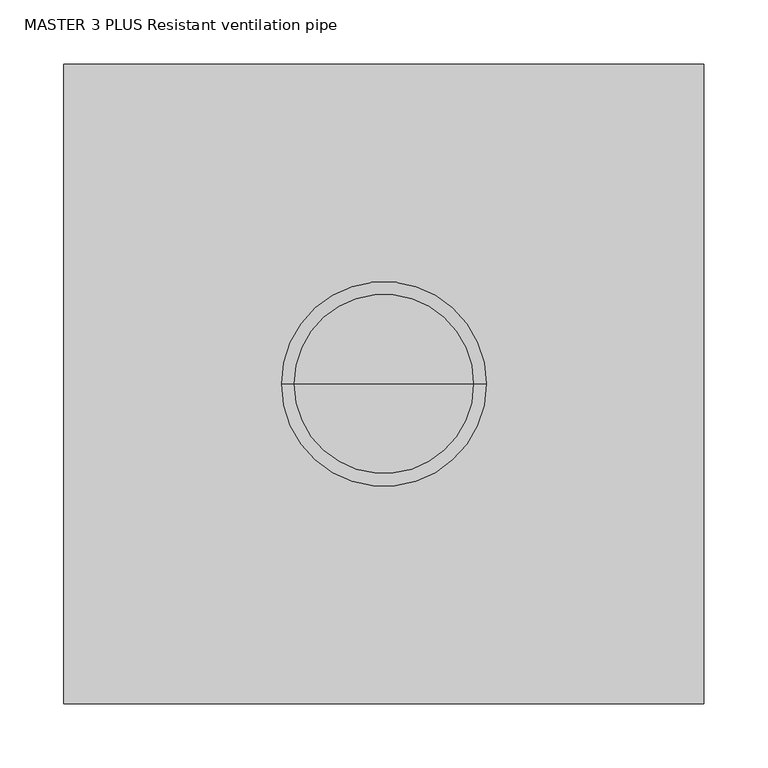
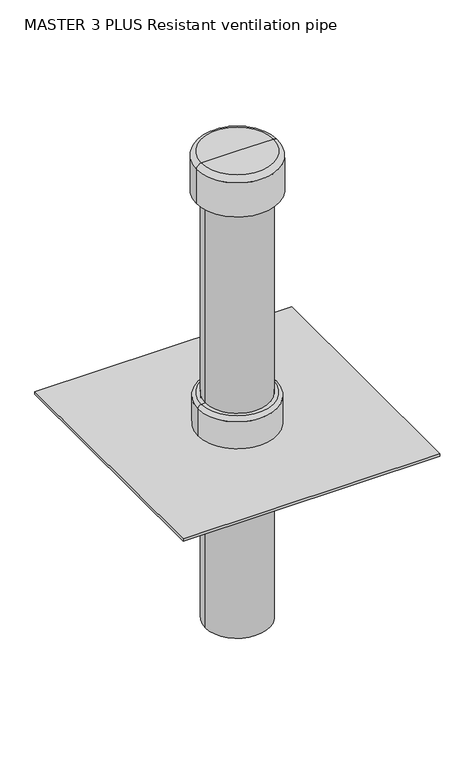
"""IFC4 building model written with IfcOpenShell, lengths in millimetres: valve geometry, MASTER 3 PLUS Resistant ventilation pipe : DN125, Lesp = 400, L3 = 560 mm."""

import ifcopenshell
import ifcopenshell.guid

model = None  # the IFC model being written
_history = None  # IfcOwnerHistory: only IFC2X3 demands one
_inside = {}  # id of a spatial element -> (the spatial element, [elements in it])
_under = {}  # id of a project, library or spatial element -> (it, [spatial elements below it])
_declared = {}  # id of a project -> (the project, [libraries it declares])
_typed = {}  # id of a type object -> (the type object, [elements of that type])
_made_of = {}  # id of a material, layer set ... -> (it, [elements and type objects made of it])


def new_model(schema):
    """Start an empty IFC model of exactly this schema.

    Asked for "IFC4X3", IfcOpenShell would pick the latest addendum, in which some entities
    have other attributes; the version numbers below select the first issue.
    IFC2X3 requires an IfcOwnerHistory on every rooted entity: one is made here for all.
    """
    global model, _history
    if schema == "IFC4X3":
        model = ifcopenshell.file(schema_version=(4, 3, 0, 0))
    else:
        model = ifcopenshell.file(schema=schema)
    _inside.clear()
    _under.clear()
    _declared.clear()
    _typed.clear()
    _made_of.clear()
    _history = None
    if model.schema == "IFC2X3":
        org = make("IfcOrganization", Name="unknown")
        user = make(
            "IfcPersonAndOrganization",
            ThePerson=make("IfcPerson", FamilyName="unknown"),
            TheOrganization=org,
        )
        app = make(
            "IfcApplication",
            ApplicationDeveloper=org,
            Version="unknown",
            ApplicationFullName="unknown",
            ApplicationIdentifier="unknown",
        )
        _history = make(
            "IfcOwnerHistory",
            OwningUser=user,
            OwningApplication=app,
            ChangeAction="ADDED",
            CreationDate=0,
        )
    return model


def make(cls, **values):
    """One entity of the class cls with the attributes given. An attribute that is None is left unset."""
    return model.create_entity(
        cls, **{name: value for name, value in values.items() if value is not None}
    )


def rooted(cls, **values):
    """An entity with a GlobalId (a new one), such as an element, a storey or a relation."""
    return make(cls, GlobalId=ifcopenshell.guid.new(), OwnerHistory=_history, **values)


def si_unit(unit_type, name, prefix=None):
    """IfcSIUnit, for example si_unit("LENGTHUNIT", "METRE", prefix="MILLI")."""
    return make("IfcSIUnit", UnitType=unit_type, Prefix=prefix, Name=name)


def assignment(units):
    """IfcUnitAssignment: the units of a project."""
    return None if units is None else make("IfcUnitAssignment", Units=units)


def point(xyz):
    """IfcCartesianPoint."""
    return None if xyz is None else make("IfcCartesianPoint", Coordinates=xyz)


def direction(xyz):
    """IfcDirection."""
    return None if xyz is None else make("IfcDirection", DirectionRatios=xyz)


def frame(location, z_axis=None, x_axis=None):
    """IfcAxis2Placement3D, a coordinate frame: its origin and axes. An axis left out is left unset."""
    return make(
        "IfcAxis2Placement3D",
        Location=point(location),
        Axis=direction(z_axis),
        RefDirection=direction(x_axis),
    )


def frame_2d(location, x_axis=None):
    """IfcAxis2Placement2D, a coordinate frame in the plane: its origin and x axis."""
    return make(
        "IfcAxis2Placement2D", Location=point(location), RefDirection=direction(x_axis)
    )


def origin():
    """The frame at (0, 0, 0) with its axes left unset."""
    return frame((0.0, 0.0, 0.0))


def origin_with_axes():
    """The frame at (0, 0, 0) with the z axis (0, 0, 1) and the x axis (1, 0, 0) written out."""
    return frame((0.0, 0.0, 0.0), z_axis=(0.0, 0.0, 1.0), x_axis=(1.0, 0.0, 0.0))


def origin_2d():
    """The frame at (0, 0) in the plane with its x axis left unset."""
    return frame_2d((0.0, 0.0))


def place(relative_to, where):
    """IfcLocalPlacement: puts the frame where relative to a parent placement (None: the world)."""
    return make(
        "IfcLocalPlacement", PlacementRelTo=relative_to, RelativePlacement=where
    )


def context(
    kind, dimensions, precision=None, world=None, true_north=None, identifier=None
):
    """IfcGeometricRepresentationContext, for example the 3D "Model" context."""
    return make(
        "IfcGeometricRepresentationContext",
        ContextIdentifier=identifier,
        ContextType=kind,
        CoordinateSpaceDimension=dimensions,
        Precision=precision,
        WorldCoordinateSystem=world,
        TrueNorth=true_north,
    )


def project(units=None, contexts=None):
    """IfcProject with its units and contexts."""
    return rooted(
        "IfcProject",
        Name="project",
        RepresentationContexts=contexts,
        UnitsInContext=assignment(units),
    )


def spatial(cls, under=None, at=None, **own):
    """A site, building, storey or space (cls), placed at a placement, below another one or the project."""
    s = rooted(cls, ObjectPlacement=at, **own)
    if under is not None:
        _under.setdefault(under.id(), (under, []))[1].append(s)
    return s


def polyline(points):
    """IfcPolyline through the points."""
    return make("IfcPolyline", Points=[point(p) for p in points])


def circle_curve(where, radius):
    """IfcCircle in the frame where."""
    return make("IfcCircle", Position=where, Radius=radius)


def ellipse_curve(where, semi_axis1, semi_axis2):
    """IfcEllipse in the frame where."""
    return make(
        "IfcEllipse", Position=where, SemiAxis1=semi_axis1, SemiAxis2=semi_axis2
    )


def trimmed(basis, trim1, trim2, sense, master):
    """IfcTrimmedCurve: the piece of a basis curve between two trims."""
    return make(
        "IfcTrimmedCurve",
        BasisCurve=basis,
        Trim1=trim1,
        Trim2=trim2,
        SenseAgreement=sense,
        MasterRepresentation=master,
    )


def segment(curve, same_sense, transition):
    """IfcCompositeCurveSegment."""
    return make(
        "IfcCompositeCurveSegment",
        Transition=transition,
        SameSense=same_sense,
        ParentCurve=curve,
    )


def composite_curve(segments, self_intersect=None):
    """IfcCompositeCurve: segments joined end to end."""
    return make("IfcCompositeCurve", Segments=segments, SelfIntersect=self_intersect)


def outline(outer, holes=None, kind="AREA"):
    """IfcArbitraryClosedProfileDef: a profile drawn as a closed curve; with holes, ...WithVoids."""
    if holes is None:
        return make("IfcArbitraryClosedProfileDef", ProfileType=kind, OuterCurve=outer)
    return make(
        "IfcArbitraryProfileDefWithVoids",
        ProfileType=kind,
        OuterCurve=outer,
        InnerCurves=holes,
    )


def extrude(swept, where, along, depth):
    """IfcExtrudedAreaSolid: the profile swept, set in the frame where, extruded along a direction by depth."""
    return make(
        "IfcExtrudedAreaSolid",
        SweptArea=swept,
        Position=where,
        ExtrudedDirection=direction(along),
        Depth=depth,
    )


def shape(context_of_items, identifier, shape_type, items):
    """IfcShapeRepresentation: the items that make up one representation, for example the "Body"."""
    return make(
        "IfcShapeRepresentation",
        ContextOfItems=context_of_items,
        RepresentationIdentifier=identifier,
        RepresentationType=shape_type,
        Items=items,
    )


def source(mapping_origin, context_of_items, identifier, shape_type, items):
    """IfcRepresentationMap: a shape defined once, which mapped items show again and again."""
    return make(
        "IfcRepresentationMap",
        MappingOrigin=mapping_origin,
        MappedRepresentation=shape(context_of_items, identifier, shape_type, items),
    )


def transform(
    local_origin,
    x_axis=None,
    y_axis=None,
    z_axis=None,
    scale=None,
    scale2=None,
    scale3=None,
    uniform=True,
):
    """IfcCartesianTransformationOperator3D, or its non-uniform kind. x_axis, y_axis, z_axis: its Axis1, 2, 3."""
    if uniform:
        return make(
            "IfcCartesianTransformationOperator3D",
            Axis1=direction(x_axis),
            Axis2=direction(y_axis),
            LocalOrigin=point(local_origin),
            Scale=scale,
            Axis3=direction(z_axis),
        )
    return make(
        "IfcCartesianTransformationOperator3DnonUniform",
        Axis1=direction(x_axis),
        Axis2=direction(y_axis),
        LocalOrigin=point(local_origin),
        Scale=scale,
        Axis3=direction(z_axis),
        Scale2=scale2,
        Scale3=scale3,
    )


def mapped(mapping_source, mapping_target):
    """IfcMappedItem: shows the shape of a source again, moved by a transform."""
    return make(
        "IfcMappedItem", MappingSource=mapping_source, MappingTarget=mapping_target
    )


def made_of(thing, what):
    """Note that an element or type object is made of a material, layer set ...; save() writes the relation."""
    if what is not None:
        _made_of.setdefault(what.id(), (what, []))[1].append(thing)
    return thing


def element(
    cls,
    number,
    at=None,
    inside=None,
    cuts=None,
    type_object=None,
    material=None,
    context=None,
    identifier="Body",
    shape_type=None,
    held_by="IfcProductDefinitionShape",
    body=None,
    shapes=None,
    **own,
):
    """One element of the class cls, such as IfcWall. Its Tag is "e" and its number.

    at: its placement. inside: the storey or other place that contains it. cuts: it is an
    opening in that element (IfcRelVoidsElement). A single representation is given by context,
    identifier, shape_type and body (its items); several are given by shapes. held_by: the class
    of the entity that holds the representations. save() writes the other relations.
    """
    e = rooted(cls, Tag="e%d" % number, ObjectPlacement=at, **own)
    if body is not None:
        shapes = [shape(context, identifier, shape_type, body)]
    if shapes is not None:
        e.Representation = make(held_by, Representations=shapes)
    if inside is not None:
        _inside.setdefault(inside.id(), (inside, []))[1].append(e)
    if cuts is not None:
        rooted(
            "IfcRelVoidsElement", RelatingBuildingElement=cuts, RelatedOpeningElement=e
        )
    if type_object is not None:
        _typed.setdefault(type_object.id(), (type_object, []))[1].append(e)
    return made_of(e, material)


def aggregate(whole, parts):
    """IfcRelAggregates: a whole, such as a stair, and the parts it consists of."""
    return rooted("IfcRelAggregates", RelatingObject=whole, RelatedObjects=parts)


def save(model, path):
    """Write the relations noted so far, then the file.

    IfcRelAggregates (storeys below a building ...), IfcRelContainedInSpatialStructure (elements
    in a storey), IfcRelDefinesByType, IfcRelAssociatesMaterial and IfcRelDeclares: one each for
    every whole, place, type object, material and project.
    """
    for whole, parts in _under.values():
        aggregate(whole, parts)
    for where, things in _inside.values():
        rooted(
            "IfcRelContainedInSpatialStructure",
            RelatedElements=things,
            RelatingStructure=where,
        )
    for kind, things in _typed.values():
        rooted("IfcRelDefinesByType", RelatedObjects=things, RelatingType=kind)
    for what, things in _made_of.values():
        rooted("IfcRelAssociatesMaterial", RelatedObjects=things, RelatingMaterial=what)
    for by, libraries in _declared.values():
        rooted("IfcRelDeclares", RelatingContext=by, RelatedDefinitions=libraries)
    model.write(path)


def plane_surface(at):
    """IfcPlane: the flat surface through the origin of the frame at, square to its z axis."""
    return make("IfcPlane", Position=at)


def cylinder_surface(at, radius):
    """IfcCylindricalSurface: all points at the distance radius from the z axis of the frame at."""
    return make("IfcCylindricalSurface", Position=at, Radius=radius)


def revolved_surface(curve, axis_point, axis_direction):
    """IfcSurfaceOfRevolution: the curve turned about the line through axis_point along axis_direction."""
    return make(
        "IfcSurfaceOfRevolution",
        SweptCurve=make("IfcArbitraryOpenProfileDef", ProfileType="CURVE", Curve=curve),
        AxisPosition=make("IfcAxis1Placement", Location=point(axis_point), Axis=direction(axis_direction)),
    )


def advanced_brep(points, edges, surfaces, faces):
    """IfcAdvancedBrep: a solid bounded by faces that lie on surfaces and meet in shared edges.

    An edge is (start, end): straight between two places in points (the first is 0);
    or (start, end, curve); or (start, end, curve, False) where it runs against its curve.
    A face is (place in surfaces, loops), or (place, loops, False) where it looks against
    its surface's normal. A loop lists edges by number (the first is 1), with a minus sign
    where the edge is run from its end to its start. The first loop is the outer one.
    """
    corners = [point(p) for p in points]
    vertices = [make("IfcVertexPoint", VertexGeometry=c) for c in corners]
    made = []
    for start, end, *more in edges:
        made.append(
            make(
                "IfcEdgeCurve",
                EdgeStart=vertices[start],
                EdgeEnd=vertices[end],
                EdgeGeometry=more[0] if more else make("IfcPolyline", Points=[corners[start], corners[end]]),
                SameSense=more[1] if len(more) > 1 else True,
            )
        )
    hull = []
    for where, loops, *sense in faces:
        bounds = []
        for j, loop in enumerate(loops):
            ring = [make("IfcOrientedEdge", EdgeElement=made[abs(k) - 1], Orientation=k > 0) for k in loop]
            bounds.append(
                make(
                    "IfcFaceOuterBound" if j == 0 else "IfcFaceBound",
                    Bound=make("IfcEdgeLoop", EdgeList=ring),
                    Orientation=True,
                )
            )
        hull.append(make("IfcAdvancedFace", Bounds=bounds, FaceSurface=surfaces[where], SameSense=sense[0] if sense else True))
    return make("IfcAdvancedBrep", Outer=make("IfcClosedShell", CfsFaces=hull))


def master_3_plus_resistant_ventilation_pipe_a471637a(model_context):
    return source(origin(), model_context, "Body", "SolidModel", [
        advanced_brep(
        [(70.0, 0.0, 960.0), (-70.0, 0.0, 960.0), (0.0, 0.0, 960.0), (80.0, 0.0, 880.0), (-80.0, 0.0, 880.0), (-80.0, 0.0, 950.0), (80.0, 0.0, 950.0), (0.0, 0.0, 880.0)],
        [
            (0, 1, circle_curve(frame((0.0, 0.0, 960.0), z_axis=(0.0, 0.0, 1.0), x_axis=(-1.0, 0.0, 0.0)), 70.0)),
            (1, 2),
            (2, 0),
            (1, 0, circle_curve(frame((0.0, 0.0, 960.0), z_axis=(0.0, 0.0, 1.0), x_axis=(-1.0, 0.0, 0.0)), 70.0)),
            (3, 4, circle_curve(frame((0.0, 0.0, 880.0), z_axis=(0.0, 0.0, 1.0), x_axis=(-1.0, 0.0, 0.0)), 80.0)),
            (4, 5),
            (5, 6, circle_curve(frame((0.0, 0.0, 950.0), z_axis=(0.0, 0.0, -1.0), x_axis=(-1.0, 0.0, 0.0)), 80.0)),
            (6, 3),
            (4, 3, circle_curve(frame((0.0, 0.0, 880.0), z_axis=(0.0, 0.0, 1.0), x_axis=(-1.0, 0.0, 0.0)), 80.0)),
            (6, 5, circle_curve(frame((0.0, 0.0, 950.0), z_axis=(0.0, 0.0, -1.0), x_axis=(-1.0, 0.0, 0.0)), 80.0)),
            (7, 4),
            (3, 7),
            (5, 1, circle_curve(frame((-70.0, 0.0, 950.0), z_axis=(0.0, 1.0, 0.0), x_axis=(1.0, 0.0, 0.0)), 10.0)),
            (0, 6, circle_curve(frame((70.0, 0.0, 950.0), z_axis=(0.0, 1.0, 0.0), x_axis=(-1.0, 0.0, 0.0)), 10.0)),
        ],
        [
            plane_surface(frame((0.0, 0.0, 960.0), z_axis=(0.0, 0.0, 1.0), x_axis=(-1.0, 0.0, 0.0))),
            cylinder_surface(frame((0.0, 0.0, 960.0), z_axis=(0.0, 0.0, -1.0), x_axis=(-1.0, 0.0, 0.0)), 80.0),
            plane_surface(frame((0.0, 0.0, 880.0), z_axis=(0.0, 0.0, -1.0), x_axis=(-1.0, 0.0, 0.0))),
            revolved_surface(trimmed(ellipse_curve(frame((-70.0, 0.0, 950.0), z_axis=(0.0, -1.0, 0.0), x_axis=(1.0, 0.0, 0.0)), 10.0, 10.0), [point((-70.0, 0.0, 960.0))], [point((-80.0, 0.0, 950.0))], True, "CARTESIAN"), (0.0, 0.0, 960.0), (0.0, 0.0, -1.0)),
        ],
        [
            (0, [[1, 2, 3]]),
            (0, [[4, -3, -2]]),
            (1, [[5, 6, 7, 8]]),
            (1, [[9, -8, 10, -6]]),
            (2, [[11, -5, 12]]),
            (2, [[-12, -9, -11]]),
            (3, [[-7, 13, -1, 14]]),
            (3, [[-10, -14, -4, -13]]),
        ],
    ),
        extrude(outline(polyline([(250.0, 250.0), (250.0, -250.0), (-250.0, -250.0), (-250.0, 250.0), (250.0, 250.0)]), holes=[composite_curve([segment(trimmed(circle_curve(origin_2d(), 62.5), [point((-62.5, 0.0))], [point((62.5, 0.0))], True, "CARTESIAN"), True, "CONTINUOUS"), segment(trimmed(circle_curve(origin_2d(), 62.5), [point((62.5, 0.0))], [point((-62.5, 0.0))], True, "CARTESIAN"), True, "CONTINUOUS")], self_intersect=False)]), frame((0.0, 0.0, 394.9838403), z_axis=(0.0, 0.0, 1.0), x_axis=(1.0, 0.0, 0.0)), (0.0, 0.0, 1.0), 5.0161597),
        advanced_brep(
        [(77.0, 0.0, 400.0), (-77.0, 0.0, 400.0), (-77.0, 0.0, 455.75), (77.0, 0.0, 455.75), (62.5, 0.0, 400.0), (-62.5, 0.0, 400.0), (62.5, 0.0, 463.0), (-62.5, 0.0, 463.0), (69.75, 0.0, 463.0), (-69.75, 0.0, 463.0)],
        [
            (0, 1, circle_curve(frame((0.0, 0.0, 400.0), z_axis=(0.0, 0.0, 1.0), x_axis=(-1.0, 0.0, 0.0)), 77.0)),
            (1, 2),
            (2, 3, circle_curve(frame((0.0, 0.0, 455.75), z_axis=(0.0, 0.0, -1.0), x_axis=(-1.0, 0.0, 0.0)), 77.0)),
            (3, 0),
            (1, 0, circle_curve(frame((0.0, 0.0, 400.0), z_axis=(0.0, 0.0, 1.0), x_axis=(-1.0, 0.0, 0.0)), 77.0)),
            (3, 2, circle_curve(frame((0.0, 0.0, 455.75), z_axis=(0.0, 0.0, -1.0), x_axis=(-1.0, 0.0, 0.0)), 77.0)),
            (4, 5, circle_curve(frame((0.0, 0.0, 400.0), z_axis=(0.0, 0.0, 1.0), x_axis=(-1.0, 0.0, 0.0)), 62.5)),
            (5, 1),
            (0, 4),
            (5, 4, circle_curve(frame((0.0, 0.0, 400.0), z_axis=(0.0, 0.0, 1.0), x_axis=(-1.0, 0.0, 0.0)), 62.5)),
            (6, 7, circle_curve(frame((0.0, 0.0, 463.0), z_axis=(0.0, 0.0, 1.0), x_axis=(-1.0, 0.0, 0.0)), 62.5)),
            (7, 5),
            (4, 6),
            (7, 6, circle_curve(frame((0.0, 0.0, 463.0), z_axis=(0.0, 0.0, 1.0), x_axis=(-1.0, 0.0, 0.0)), 62.5)),
            (8, 9, circle_curve(frame((0.0, 0.0, 463.0), z_axis=(0.0, 0.0, 1.0), x_axis=(-1.0, 0.0, 0.0)), 69.75)),
            (9, 7),
            (6, 8),
            (9, 8, circle_curve(frame((0.0, 0.0, 463.0), z_axis=(0.0, 0.0, 1.0), x_axis=(-1.0, 0.0, 0.0)), 69.75)),
            (2, 9, circle_curve(frame((-69.75, 0.0, 455.75), z_axis=(0.0, 1.0, 0.0), x_axis=(1.0, 0.0, 0.0)), 7.25)),
            (8, 3, circle_curve(frame((69.75, 0.0, 455.75), z_axis=(0.0, 1.0, 0.0), x_axis=(-1.0, 0.0, 0.0)), 7.25)),
        ],
        [
            cylinder_surface(frame((0.0, 0.0, 463.0), z_axis=(0.0, 0.0, -1.0), x_axis=(-1.0, 0.0, 0.0)), 77.0),
            plane_surface(frame((0.0, 0.0, 400.0), z_axis=(0.0, 0.0, -1.0), x_axis=(-1.0, 0.0, 0.0))),
            revolved_surface(polyline([(-62.5, 0.0, 400.0), (-62.5, 0.0, 463.0)]), (0.0, 0.0, 463.0), (0.0, 0.0, -1.0)),
            plane_surface(frame((0.0, 0.0, 463.0), z_axis=(0.0, 0.0, 1.0), x_axis=(-1.0, 0.0, 0.0))),
            revolved_surface(trimmed(ellipse_curve(frame((-69.75, 0.0, 455.75), z_axis=(0.0, -1.0, 0.0), x_axis=(1.0, 0.0, 0.0)), 7.25, 7.25), [point((-69.75, 0.0, 463.0))], [point((-77.0, 0.0, 455.75))], True, "CARTESIAN"), (0.0, 0.0, 463.0), (0.0, 0.0, -1.0)),
        ],
        [
            (0, [[1, 2, 3, 4]]),
            (0, [[5, -4, 6, -2]]),
            (1, [[7, 8, -1, 9]]),
            (1, [[10, -9, -5, -8]]),
            (2, [[11, 12, -7, 13]]),
            (2, [[14, -13, -10, -12]]),
            (3, [[15, 16, -11, 17]]),
            (3, [[18, -17, -14, -16]]),
            (4, [[-3, 19, -15, 20]]),
            (4, [[-6, -20, -18, -19]]),
        ],
    ),
        extrude(outline(composite_curve([segment(trimmed(circle_curve(origin_2d(), 62.5), [point((62.5, 0.0))], [point((-62.5, 0.0))], False, "CARTESIAN"), True, "CONTINUOUS"), segment(trimmed(circle_curve(origin_2d(), 62.5), [point((-62.5, 0.0))], [point((62.5, 0.0))], False, "CARTESIAN"), True, "CONTINUOUS")], self_intersect=False)), frame((0.0, 0.0, 400.0), z_axis=(0.0, 0.0, 1.0), x_axis=(1.0, 0.0, 0.0)), (0.0, 0.0, 1.0), 532.0),
        extrude(outline(composite_curve([segment(trimmed(circle_curve(origin_2d(), 62.5), [point((-62.5, 0.0))], [point((62.5, 0.0))], False, "CARTESIAN"), True, "CONTINUOUS"), segment(trimmed(circle_curve(origin_2d(), 62.5), [point((62.5, 0.0))], [point((-62.5, 0.0))], False, "CARTESIAN"), True, "CONTINUOUS")], self_intersect=False)), origin_with_axes(), (0.0, 0.0, 1.0), 394.9838403),
    ])


if __name__ == "__main__":
    model = new_model("IFC4")
    model_context = context("Model", 3, world=origin())
    ifc_project = project(units=[si_unit("LENGTHUNIT", "METRE", prefix="MILLI")], contexts=[model_context])
    site = spatial("IfcSite", under=ifc_project)
    building = spatial("IfcBuilding", under=site)
    placement = place(None, origin())
    master_3_plus_resistant_ventilation_pipe_shape = master_3_plus_resistant_ventilation_pipe_a471637a(model_context)
    element("IfcValve", 1, ObjectType="MASTER 3 PLUS Resistant ventilation pipe : DN125, Lesp = 400, L3 = 560 mm", at=placement, inside=building, context=model_context, shape_type="MappedRepresentation", body=[
        mapped(master_3_plus_resistant_ventilation_pipe_shape, transform((0.0, 0.0, 0.0), x_axis=(1.0, 0.0, 0.0), y_axis=(0.0, 1.0, 0.0), z_axis=(0.0, 0.0, 1.0))),
    ])
    save(model, "model.ifc")
